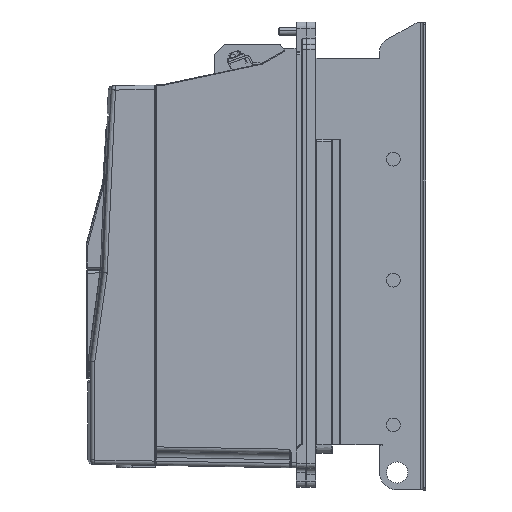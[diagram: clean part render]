
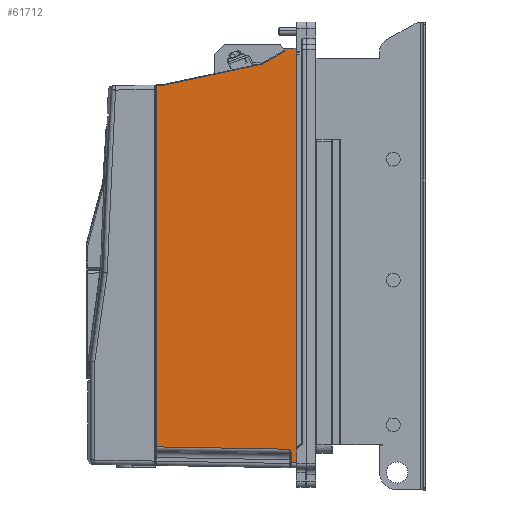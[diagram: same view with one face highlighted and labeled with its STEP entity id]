
A CAD part, left-side view. The second image highlights one B-rep face of the part: STEP entity #61712.
In plain terms, the highlighted planar face has unit normal (-1, 0.018, 0).
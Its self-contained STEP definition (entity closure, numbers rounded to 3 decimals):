
#1495 = CARTESIAN_POINT ( 'NONE',  ( -110.326, -26.545, 153.611 ) ) ;
#2080 = CARTESIAN_POINT ( 'NONE',  ( -108.891, 53.455, 136.607 ) ) ;
#2278 = CARTESIAN_POINT ( 'NONE',  ( -110.658, -44.991, 164.784 ) ) ;
#2380 = ORIENTED_EDGE ( 'NONE', *, *, #25692, .T. ) ;
#2776 = ORIENTED_EDGE ( 'NONE', *, *, #65979, .F. ) ;
#3281 = VERTEX_POINT ( 'NONE', #10046 ) ;
#4017 = CARTESIAN_POINT ( 'NONE',  ( -110.734, -49.246, -155.402 ) ) ;
#4203 = VECTOR ( 'NONE', #38420, 1000. ) ;
#5002 = CARTESIAN_POINT ( 'NONE',  ( -108.693, 64.434, -163.895 ) ) ;
#6039 = VERTEX_POINT ( 'NONE', #70553 ) ;
#10046 = CARTESIAN_POINT ( 'NONE',  ( -110.747, -49.991, -157.617 ) ) ;
#11478 = VERTEX_POINT ( 'NONE', #47024 ) ;
#11690 = CARTESIAN_POINT ( 'NONE',  ( -110.332, -26.837, 153.723 ) ) ;
#12816 = AXIS2_PLACEMENT_3D ( 'NONE', #84043, #92327, #12986 ) ;
#12959 = EDGE_LOOP ( 'NONE', ( #44150, #78058, #77916, #65625, #51210, #2776, #65830, #57379, #76363, #53064, #66648, #65486, #70981, #2380 ) ) ;
#12986 = DIRECTION ( 'NONE',  ( 0.018, 1., 0. ) ) ;
#14331 = DIRECTION ( 'NONE',  ( -0.018, -1., -0.018 ) ) ;
#15970 = VERTEX_POINT ( 'NONE', #100058 ) ;
#17542 = EDGE_CURVE ( 'NONE', #3281, #69385, #41870, .T. ) ;
#19112 = LINE ( 'NONE', #79848, #51240 ) ;
#20492 = VECTOR ( 'NONE', #57220, 1000. ) ;
#21134 = CARTESIAN_POINT ( 'NONE',  ( -108.891, 53.455, 136.607 ) ) ;
#21799 = CARTESIAN_POINT ( 'NONE',  ( -108.81, 57.916, 136.51 ) ) ;
#21806 = VERTEX_POINT ( 'NONE', #60771 ) ;
#22644 = DIRECTION ( 'NONE',  ( 0., 0., -1. ) ) ;
#23343 = PLANE ( 'NONE',  #12816 ) ;
#24516 = CARTESIAN_POINT ( 'NONE',  ( -108.809, 58.009, -153.124 ) ) ;
#25255 = CARTESIAN_POINT ( 'NONE',  ( -108.699, 64.136, -153.017 ) ) ;
#25692 = EDGE_CURVE ( 'NONE', #69385, #6039, #100367, .T. ) ;
#25861 = VECTOR ( 'NONE', #67871, 1000. ) ;
#26625 = VERTEX_POINT ( 'NONE', #32432 ) ;
#26858 = VECTOR ( 'NONE', #66620, 1000. ) ;
#27443 = EDGE_CURVE ( 'NONE', #21806, #15970, #38937, .T. ) ;
#27734 = EDGE_CURVE ( 'NONE', #15970, #70758, #75152, .T. ) ;
#28137 = DIRECTION ( 'NONE',  ( 0.016, 0.866, -0.5 ) ) ;
#29412 = CARTESIAN_POINT ( 'NONE',  ( -110.73, -49.009, -154.992 ) ) ;
#29543 = VERTEX_POINT ( 'NONE', #61266 ) ;
#30070 = EDGE_CURVE ( 'NONE', #68788, #26625, #69797, .T. ) ;
#30690 = VECTOR ( 'NONE', #42372, 1000. ) ;
#30960 = VERTEX_POINT ( 'NONE', #21134 ) ;
#31152 = CARTESIAN_POINT ( 'NONE',  ( -108.926, 51.493, 137.024 ) ) ;
#32432 = CARTESIAN_POINT ( 'NONE',  ( -110.658, -44.991, 164.784 ) ) ;
#34421 = CARTESIAN_POINT ( 'NONE',  ( -110.649, -44.491, 163.917 ) ) ;
#34859 = B_SPLINE_CURVE_WITH_KNOTS ( 'NONE', 3,
 ( #29412, #4017, #61015, #76560, #82858, #68780, #98899, #44444 ),
 .UNSPECIFIED., .F., .F.,
 ( 4, 2, 2, 4 ),
 ( 0., 0.001, 0.002, 0.003 ),
 .UNSPECIFIED. ) ;
#35726 = CARTESIAN_POINT ( 'NONE',  ( -108.889, 53.518, 136.593 ) ) ;
#36844 = CARTESIAN_POINT ( 'NONE',  ( -110.658, -44.991, 166. ) ) ;
#38420 = DIRECTION ( 'NONE',  ( 0.018, 1., -0.017 ) ) ;
#38937 = LINE ( 'NONE', #21799, #4203 ) ;
#39161 =( BOUNDED_CURVE ( )  B_SPLINE_CURVE ( 3, ( #34421, #57228, #57735, #2278 ),
 .UNSPECIFIED., .F., .T. ) 
 B_SPLINE_CURVE_WITH_KNOTS ( ( 4, 4 ),
 ( 4.712, 5.76 ),
 .UNSPECIFIED. ) 
 CURVE ( )  GEOMETRIC_REPRESENTATION_ITEM ( )  RATIONAL_B_SPLINE_CURVE ( ( 1., 0.911, 0.911, 1. ) ) 
 REPRESENTATION_ITEM ( '' )  );
#40690 = LINE ( 'NONE', #89878, #20492 ) ;
#41870 = LINE ( 'NONE', #90056, #30690 ) ;
#42372 = DIRECTION ( 'NONE',  ( 0., 0., -1. ) ) ;
#42708 = LINE ( 'NONE', #74281, #64191 ) ;
#42834 = LINE ( 'NONE', #25255, #26858 ) ;
#44150 = ORIENTED_EDGE ( 'NONE', *, *, #90732, .F. ) ;
#44444 = CARTESIAN_POINT ( 'NONE',  ( -110.747, -49.991, -157.617 ) ) ;
#45997 = EDGE_CURVE ( 'NONE', #70758, #64018, #42834, .T. ) ;
#47024 = CARTESIAN_POINT ( 'NONE',  ( -110.332, -26.837, 153.723 ) ) ;
#51210 = ORIENTED_EDGE ( 'NONE', *, *, #64181, .T. ) ;
#51240 = VECTOR ( 'NONE', #66275, 1000. ) ;
#51556 = CARTESIAN_POINT ( 'NONE',  ( -110.326, -26.545, 153.611 ) ) ;
#51766 = VERTEX_POINT ( 'NONE', #1495 ) ;
#52066 = CARTESIAN_POINT ( 'NONE',  ( -110.649, -44.491, 163.917 ) ) ;
#52069 = CARTESIAN_POINT ( 'NONE',  ( -110.328, -26.648, 153.633 ) ) ;
#52237 =( BOUNDED_CURVE ( )  B_SPLINE_CURVE ( 3, ( #51556, #52069, #97790, #11690 ),
 .UNSPECIFIED., .F., .T. ) 
 B_SPLINE_CURVE_WITH_KNOTS ( ( 4, 4 ),
 ( 4.398, 4.712 ),
 .UNSPECIFIED. ) 
 CURVE ( )  GEOMETRIC_REPRESENTATION_ITEM ( )  RATIONAL_B_SPLINE_CURVE ( ( 1., 0.992, 0.992, 1. ) ) 
 REPRESENTATION_ITEM ( '' )  );
#52796 = EDGE_CURVE ( 'NONE', #64018, #3281, #34859, .T. ) ;
#53064 = ORIENTED_EDGE ( 'NONE', *, *, #27734, .T. ) ;
#53255 = EDGE_CURVE ( 'NONE', #67282, #26625, #39161, .T. ) ;
#54453 = LINE ( 'NONE', #31152, #65087 ) ;
#57125 = EDGE_CURVE ( 'NONE', #29543, #68788, #40690, .T. ) ;
#57220 = DIRECTION ( 'NONE',  ( 0.018, 1., 0. ) ) ;
#57228 = CARTESIAN_POINT ( 'NONE',  ( -110.654, -44.808, 164.1 ) ) ;
#57379 = ORIENTED_EDGE ( 'NONE', *, *, #97196, .F. ) ;
#57735 = CARTESIAN_POINT ( 'NONE',  ( -110.658, -44.991, 164.418 ) ) ;
#60771 = CARTESIAN_POINT ( 'NONE',  ( -108.887, 53.646, 136.585 ) ) ;
#61015 = CARTESIAN_POINT ( 'NONE',  ( -110.738, -49.482, -155.814 ) ) ;
#61266 = CARTESIAN_POINT ( 'NONE',  ( -110.819, -54., 166. ) ) ;
#61712 = ADVANCED_FACE ( 'NONE', ( #94389 ), #23343, .F. ) ;
#64018 = VERTEX_POINT ( 'NONE', #88905 ) ;
#64181 = EDGE_CURVE ( 'NONE', #67282, #11478, #42708, .T. ) ;
#64191 = VECTOR ( 'NONE', #28137, 1000. ) ;
#65087 = VECTOR ( 'NONE', #93360, 1000. ) ;
#65486 = ORIENTED_EDGE ( 'NONE', *, *, #52796, .T. ) ;
#65625 = ORIENTED_EDGE ( 'NONE', *, *, #53255, .F. ) ;
#65830 = ORIENTED_EDGE ( 'NONE', *, *, #81539, .T. ) ;
#65876 =( BOUNDED_CURVE ( )  B_SPLINE_CURVE ( 3, ( #66298, #98958, #35726, #2080 ),
 .UNSPECIFIED., .F., .T. ) 
 B_SPLINE_CURVE_WITH_KNOTS ( ( 4, 4 ),
 ( 1.588, 1.78 ),
 .UNSPECIFIED. ) 
 CURVE ( )  GEOMETRIC_REPRESENTATION_ITEM ( )  RATIONAL_B_SPLINE_CURVE ( ( 1., 0.997, 0.997, 1. ) ) 
 REPRESENTATION_ITEM ( '' )  );
#65979 = EDGE_CURVE ( 'NONE', #51766, #11478, #52237, .T. ) ;
#66275 = DIRECTION ( 'NONE',  ( 0., 0., -1. ) ) ;
#66298 = CARTESIAN_POINT ( 'NONE',  ( -108.887, 53.646, 136.585 ) ) ;
#66620 = DIRECTION ( 'NONE',  ( -0.018, -1., -0.017 ) ) ;
#66648 = ORIENTED_EDGE ( 'NONE', *, *, #45997, .T. ) ;
#67282 = VERTEX_POINT ( 'NONE', #52066 ) ;
#67871 = DIRECTION ( 'NONE',  ( 0., 0., -1. ) ) ;
#68780 = CARTESIAN_POINT ( 'NONE',  ( -110.747, -49.956, -157.147 ) ) ;
#68788 = VERTEX_POINT ( 'NONE', #36844 ) ;
#69385 = VERTEX_POINT ( 'NONE', #76621 ) ;
#69797 = LINE ( 'NONE', #101434, #75441 ) ;
#70553 = CARTESIAN_POINT ( 'NONE',  ( -110.819, -54., -166.001 ) ) ;
#70758 = VERTEX_POINT ( 'NONE', #24516 ) ;
#70981 = ORIENTED_EDGE ( 'NONE', *, *, #17542, .T. ) ;
#74281 = CARTESIAN_POINT ( 'NONE',  ( -110.33, -26.763, 153.681 ) ) ;
#75152 = LINE ( 'NONE', #91266, #25861 ) ;
#75441 = VECTOR ( 'NONE', #22644, 1000. ) ;
#76363 = ORIENTED_EDGE ( 'NONE', *, *, #27443, .T. ) ;
#76560 = CARTESIAN_POINT ( 'NONE',  ( -110.743, -49.76, -156.465 ) ) ;
#76621 = CARTESIAN_POINT ( 'NONE',  ( -110.747, -49.991, -165.929 ) ) ;
#77916 = ORIENTED_EDGE ( 'NONE', *, *, #30070, .T. ) ;
#78058 = ORIENTED_EDGE ( 'NONE', *, *, #57125, .T. ) ;
#79848 = CARTESIAN_POINT ( 'NONE',  ( -110.819, -54., 170. ) ) ;
#81539 = EDGE_CURVE ( 'NONE', #51766, #30960, #54453, .T. ) ;
#82858 = CARTESIAN_POINT ( 'NONE',  ( -110.745, -49.84, -156.69 ) ) ;
#84043 = CARTESIAN_POINT ( 'NONE',  ( -108.8, 58.5, 170. ) ) ;
#88905 = CARTESIAN_POINT ( 'NONE',  ( -110.73, -49.009, -154.992 ) ) ;
#89878 = CARTESIAN_POINT ( 'NONE',  ( -108.8, 58.5, 166. ) ) ;
#90056 = CARTESIAN_POINT ( 'NONE',  ( -110.747, -49.991, -165.921 ) ) ;
#90732 = EDGE_CURVE ( 'NONE', #29543, #6039, #19112, .T. ) ;
#91266 = CARTESIAN_POINT ( 'NONE',  ( -108.809, 58.009, 170. ) ) ;
#92327 = DIRECTION ( 'NONE',  ( 1., -0.018, 0. ) ) ;
#93360 = DIRECTION ( 'NONE',  ( 0.018, 0.978, -0.208 ) ) ;
#94389 = FACE_OUTER_BOUND ( 'NONE', #12959, .T. ) ;
#97196 = EDGE_CURVE ( 'NONE', #21806, #30960, #65876, .T. ) ;
#97790 = CARTESIAN_POINT ( 'NONE',  ( -110.33, -26.746, 153.671 ) ) ;
#98899 = CARTESIAN_POINT ( 'NONE',  ( -110.747, -49.991, -157.379 ) ) ;
#98958 = CARTESIAN_POINT ( 'NONE',  ( -108.888, 53.582, 136.586 ) ) ;
#100047 = VECTOR ( 'NONE', #14331, 1000. ) ;
#100058 = CARTESIAN_POINT ( 'NONE',  ( -108.809, 58.009, 136.509 ) ) ;
#100367 = LINE ( 'NONE', #5002, #100047 ) ;
#101434 = CARTESIAN_POINT ( 'NONE',  ( -110.658, -44.991, 170. ) ) ;
